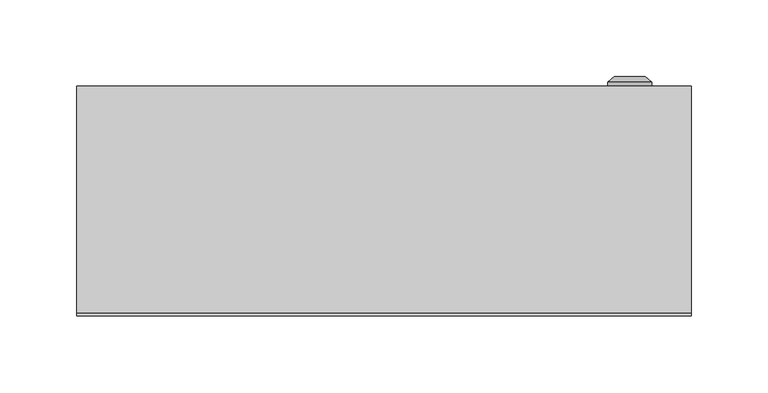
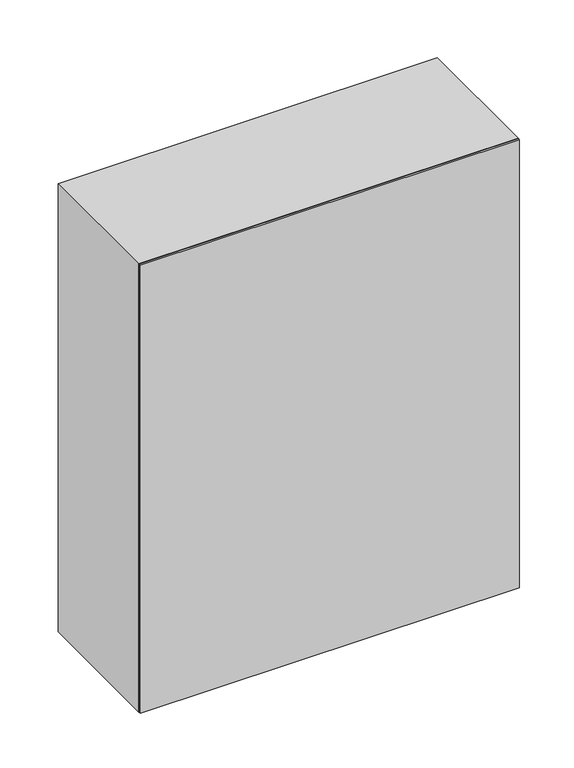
"""IFC4 building model written with IfcOpenShell, lengths in millimetres: proxy geometry, ЩМП : ЩМП-2-1_500х400х150."""

from ifc_helpers import new_model, si_unit, frame, origin, origin_with_axes, place, context, project, spatial, polyline, circle_curve, outline, extrude, source, transform, mapped, element, save
from ifc_brep_helpers import plane_surface, cylinder_surface, revolved_surface, advanced_brep


def electrical_equipment_8c9b66d6(model_context):
    return source(origin(), model_context, "Body", "SolidModel", [
        advanced_brep(
        [(145.669873, 150.0, 250.0), (174.330127, 150.0, 250.0), (160.0, 150.0, 250.0), (145.669873, 152.366592, 250.0), (174.330127, 152.366592, 250.0), (150.0, 156.0, 250.0), (170.0, 156.0, 250.0), (158.1080471, 156.0, 250.0), (161.8919529, 156.0, 250.0), (158.1080471, 154.9822294, 250.0), (161.8919529, 154.9822294, 250.0), (160.0, 154.9822294, 250.0)],
        [
            (0, 1, circle_curve(frame((160.0, 150.0, 250.0), z_axis=(0.0, -1.0, 0.0), x_axis=(1.0, 0.0, 0.0)), 14.330127)),
            (1, 2),
            (2, 0),
            (1, 0, circle_curve(frame((160.0, 150.0, 250.0), z_axis=(0.0, -1.0, 0.0), x_axis=(1.0, 0.0, 0.0)), 14.330127)),
            (3, 4, circle_curve(frame((160.0, 152.366592, 250.0), z_axis=(0.0, -1.0, 0.0), x_axis=(1.0, 0.0, 0.0)), 14.330127)),
            (4, 1),
            (0, 3),
            (4, 3, circle_curve(frame((160.0, 152.366592, 250.0), z_axis=(0.0, -1.0, 0.0), x_axis=(1.0, 0.0, 0.0)), 14.330127)),
            (5, 6, circle_curve(frame((160.0, 156.0, 250.0), z_axis=(0.0, -1.0, 0.0), x_axis=(1.0, 0.0, 0.0)), 10.0)),
            (6, 4),
            (3, 5),
            (6, 5, circle_curve(frame((160.0, 156.0, 250.0), z_axis=(0.0, -1.0, 0.0), x_axis=(1.0, 0.0, 0.0)), 10.0)),
            (7, 8, circle_curve(frame((160.0, 156.0, 250.0), z_axis=(0.0, -1.0, 0.0), x_axis=(1.0, 0.0, 0.0)), 1.8919529)),
            (8, 6),
            (5, 7),
            (8, 7, circle_curve(frame((160.0, 156.0, 250.0), z_axis=(0.0, -1.0, 0.0), x_axis=(1.0, 0.0, 0.0)), 1.8919529)),
            (9, 10, circle_curve(frame((160.0, 154.9822294, 250.0), z_axis=(0.0, -1.0, 0.0), x_axis=(1.0, 0.0, 0.0)), 1.8919529)),
            (10, 8),
            (7, 9),
            (10, 9, circle_curve(frame((160.0, 154.9822294, 250.0), z_axis=(0.0, -1.0, 0.0), x_axis=(1.0, 0.0, 0.0)), 1.8919529)),
            (11, 10),
            (9, 11),
        ],
        [
            plane_surface(frame((160.0, 150.0, 250.0), z_axis=(0.0, -1.0, 0.0), x_axis=(1.0, 0.0, 0.0))),
            cylinder_surface(frame((160.0, 163.1348851, 250.0), z_axis=(0.0, 1.0, 0.0), x_axis=(1.0, 0.0, 0.0)), 14.330127),
            revolved_surface(polyline([(174.330127, 152.366592, 250.0), (170.0, 156.0, 250.0)]), (160.0, 163.1348851, 250.0), (0.0, 1.0, 0.0)),
            plane_surface(frame((160.0, 156.0, 250.0), z_axis=(0.0, 1.0, 0.0), x_axis=(1.0, 0.0, 0.0))),
            revolved_surface(polyline([(161.8919529, 156.0, 250.0), (161.8919529, 154.9822294, 250.0)]), (160.0, 163.1348851, 250.0), (0.0, 1.0, 0.0)),
            plane_surface(frame((160.0, 154.9822294, 250.0), z_axis=(0.0, 1.0, 0.0), x_axis=(1.0, 0.0, 0.0))),
        ],
        [
            (0, [[1, 2, 3]]),
            (0, [[4, -3, -2]]),
            (1, [[5, 6, -1, 7]]),
            (1, [[8, -7, -4, -6]]),
            (2, [[9, 10, -5, 11]]),
            (2, [[12, -11, -8, -10]]),
            (3, [[13, 14, -9, 15]]),
            (3, [[16, -15, -12, -14]]),
            (4, [[17, 18, -13, 19]]),
            (4, [[20, -19, -16, -18]]),
            (5, [[21, -17, 22]]),
            (5, [[-22, -20, -21]]),
        ],
    ),
        extrude(outline(polyline([(184.0, 125.0), (-184.0, 125.0), (-184.0, 150.0), (184.0, 150.0), (184.0, 125.0)])), frame((0.0, 0.0, 18.5), z_axis=(0.0, 0.0, 1.0), x_axis=(1.0, 0.0, 0.0)), (0.0, 0.0, 1.0), 463.0),
        extrude(outline(polyline([(500.0, -200.0033905), (0.0, -200.0033905), (0.0, 199.9966095), (500.0, 199.9966095), (500.0, -200.0033905)]), holes=[polyline([(465.0, -170.0033905), (465.0, 169.9966095), (35.0, 169.9966095), (35.0, -170.0033905), (465.0, -170.0033905)])]), frame((0.0, 2.0, 0.0), z_axis=(0.0, 1.0, 0.0), x_axis=(0.0, 0.0, 1.0)), (0.0, 0.0, 1.0), 148.0),
        extrude(outline(polyline([(200.0, 0.0), (-200.0, 0.0), (-200.0, 2.0), (200.0, 2.0), (200.0, 0.0)])), origin_with_axes(), (0.0, 0.0, 1.0), 500.0),
    ])


if __name__ == "__main__":
    model = new_model("IFC4")
    model_context = context("Model", 3, world=origin())
    ifc_project = project(units=[si_unit("LENGTHUNIT", "METRE", prefix="MILLI")], contexts=[model_context])
    site = spatial("IfcSite", under=ifc_project)
    building = spatial("IfcBuilding", under=site)
    placement = place(None, origin())
    electrical_equipment_shape = electrical_equipment_8c9b66d6(model_context)
    element("IfcBuildingElementProxy", 1, Name="ЩМП : ЩМП-2-1_500х400х150", ObjectType="ЩМП : ЩМП-2-1_500х400х150", at=placement, inside=building, context=model_context, shape_type="MappedRepresentation", body=[
        mapped(electrical_equipment_shape, transform((0.0, 0.0, 0.0), x_axis=(1.0, 0.0, 0.0), y_axis=(0.0, 1.0, 0.0), z_axis=(0.0, 0.0, 1.0))),
    ])
    save(model, "model.ifc")
